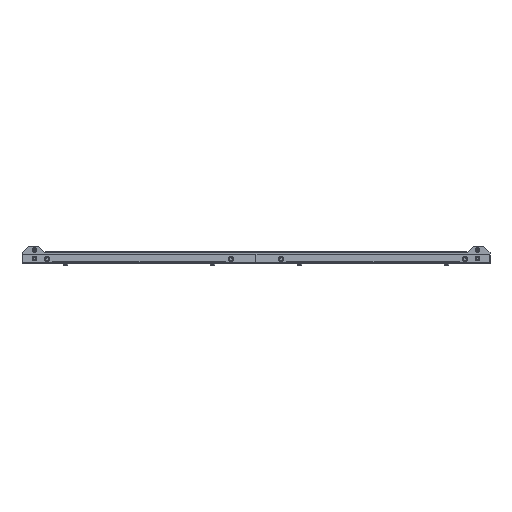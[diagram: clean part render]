
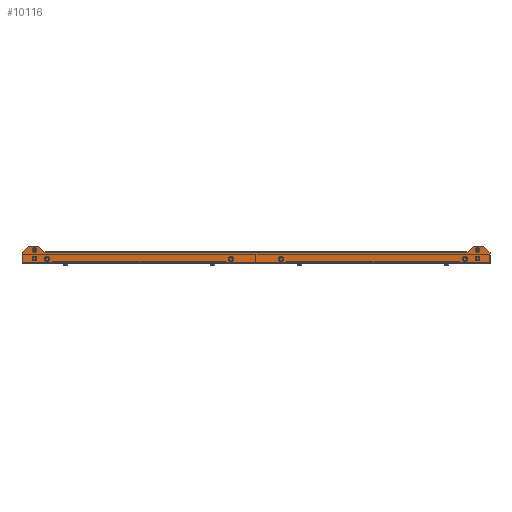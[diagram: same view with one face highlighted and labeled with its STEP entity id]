
A CAD part, front view. The second image highlights one B-rep face of the part: STEP entity #10116.
In plain terms, the highlighted planar face has unit normal (0, -1, 0).
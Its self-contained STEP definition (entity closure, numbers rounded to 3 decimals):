
#10080 = EDGE_CURVE('',#10081,#10083,#10085,.T.);
#10081 = VERTEX_POINT('',#10082);
#10082 = CARTESIAN_POINT('',(-700.,-2.5,3.5));
#10083 = VERTEX_POINT('',#10084);
#10084 = CARTESIAN_POINT('',(-700.,-2.5,31.5));
#10085 = LINE('',#10086,#10087);
#10086 = CARTESIAN_POINT('',(-700.,-2.5,0.));
#10087 = VECTOR('',#10088,1.);
#10088 = DIRECTION('',(0.,0.,1.));
#10116 = ADVANCED_FACE('',(#10117,#10128,#10139,#10150,#10161),#10282,
  .F.);
#10117 = FACE_BOUND('',#10118,.T.);
#10118 = EDGE_LOOP('',(#10119));
#10119 = ORIENTED_EDGE('',*,*,#10120,.F.);
#10120 = EDGE_CURVE('',#10121,#10121,#10123,.T.);
#10121 = VERTEX_POINT('',#10122);
#10122 = CARTESIAN_POINT('',(662.5,-2.5,44.75));
#10123 = CIRCLE('',#10124,4.75);
#10124 = AXIS2_PLACEMENT_3D('',#10125,#10126,#10127);
#10125 = CARTESIAN_POINT('',(662.5,-2.5,40.));
#10126 = DIRECTION('',(0.,-1.,0.));
#10127 = DIRECTION('',(0.,0.,1.));
#10128 = FACE_BOUND('',#10129,.T.);
#10129 = EDGE_LOOP('',(#10130));
#10130 = ORIENTED_EDGE('',*,*,#10131,.F.);
#10131 = EDGE_CURVE('',#10132,#10132,#10134,.T.);
#10132 = VERTEX_POINT('',#10133);
#10133 = CARTESIAN_POINT('',(662.5,-2.5,19.75));
#10134 = CIRCLE('',#10135,4.75);
#10135 = AXIS2_PLACEMENT_3D('',#10136,#10137,#10138);
#10136 = CARTESIAN_POINT('',(662.5,-2.5,15.));
#10137 = DIRECTION('',(0.,-1.,0.));
#10138 = DIRECTION('',(0.,0.,1.));
#10139 = FACE_BOUND('',#10140,.T.);
#10140 = EDGE_LOOP('',(#10141));
#10141 = ORIENTED_EDGE('',*,*,#10142,.F.);
#10142 = EDGE_CURVE('',#10143,#10143,#10145,.T.);
#10143 = VERTEX_POINT('',#10144);
#10144 = CARTESIAN_POINT('',(-662.5,-2.5,19.75));
#10145 = CIRCLE('',#10146,4.75);
#10146 = AXIS2_PLACEMENT_3D('',#10147,#10148,#10149);
#10147 = CARTESIAN_POINT('',(-662.5,-2.5,15.));
#10148 = DIRECTION('',(0.,-1.,0.));
#10149 = DIRECTION('',(0.,0.,1.));
#10150 = FACE_BOUND('',#10151,.T.);
#10151 = EDGE_LOOP('',(#10152));
#10152 = ORIENTED_EDGE('',*,*,#10153,.F.);
#10153 = EDGE_CURVE('',#10154,#10154,#10156,.T.);
#10154 = VERTEX_POINT('',#10155);
#10155 = CARTESIAN_POINT('',(-662.5,-2.5,44.75));
#10156 = CIRCLE('',#10157,4.75);
#10157 = AXIS2_PLACEMENT_3D('',#10158,#10159,#10160);
#10158 = CARTESIAN_POINT('',(-662.5,-2.5,40.));
#10159 = DIRECTION('',(0.,-1.,0.));
#10160 = DIRECTION('',(0.,0.,1.));
#10161 = FACE_BOUND('',#10162,.T.);
#10162 = EDGE_LOOP('',(#10163,#10173,#10181,#10189,#10197,#10205,#10213,
    #10221,#10229,#10237,#10245,#10253,#10259,#10260,#10268,#10276));
#10163 = ORIENTED_EDGE('',*,*,#10164,.F.);
#10164 = EDGE_CURVE('',#10165,#10167,#10169,.T.);
#10165 = VERTEX_POINT('',#10166);
#10166 = CARTESIAN_POINT('',(700.,-2.5,31.5));
#10167 = VERTEX_POINT('',#10168);
#10168 = CARTESIAN_POINT('',(700.,-2.5,3.5));
#10169 = LINE('',#10170,#10171);
#10170 = CARTESIAN_POINT('',(700.,-2.5,0.));
#10171 = VECTOR('',#10172,1.);
#10172 = DIRECTION('',(-0.,-0.,-1.));
#10173 = ORIENTED_EDGE('',*,*,#10174,.T.);
#10174 = EDGE_CURVE('',#10165,#10175,#10177,.T.);
#10175 = VERTEX_POINT('',#10176);
#10176 = CARTESIAN_POINT('',(681.5,-2.5,50.));
#10177 = LINE('',#10178,#10179);
#10178 = CARTESIAN_POINT('',(681.5,-2.5,50.));
#10179 = VECTOR('',#10180,1.);
#10180 = DIRECTION('',(-0.707,-0.,0.707));
#10181 = ORIENTED_EDGE('',*,*,#10182,.F.);
#10182 = EDGE_CURVE('',#10183,#10175,#10185,.T.);
#10183 = VERTEX_POINT('',#10184);
#10184 = CARTESIAN_POINT('',(650.,-2.5,50.));
#10185 = LINE('',#10186,#10187);
#10186 = CARTESIAN_POINT('',(700.,-2.5,50.));
#10187 = VECTOR('',#10188,1.);
#10188 = DIRECTION('',(1.,-0.,0.));
#10189 = ORIENTED_EDGE('',*,*,#10190,.T.);
#10190 = EDGE_CURVE('',#10183,#10191,#10193,.T.);
#10191 = VERTEX_POINT('',#10192);
#10192 = CARTESIAN_POINT('',(631.5,-2.5,31.5));
#10193 = LINE('',#10194,#10195);
#10194 = CARTESIAN_POINT('',(300.,-2.5,-300.));
#10195 = VECTOR('',#10196,1.);
#10196 = DIRECTION('',(-0.707,0.,-0.707));
#10197 = ORIENTED_EDGE('',*,*,#10198,.F.);
#10198 = EDGE_CURVE('',#10199,#10191,#10201,.T.);
#10199 = VERTEX_POINT('',#10200);
#10200 = CARTESIAN_POINT('',(630.,-2.5,31.5));
#10201 = LINE('',#10202,#10203);
#10202 = CARTESIAN_POINT('',(-650.,-2.5,31.5));
#10203 = VECTOR('',#10204,1.);
#10204 = DIRECTION('',(1.,0.,0.));
#10205 = ORIENTED_EDGE('',*,*,#10206,.T.);
#10206 = EDGE_CURVE('',#10199,#10207,#10209,.T.);
#10207 = VERTEX_POINT('',#10208);
#10208 = CARTESIAN_POINT('',(630.,-2.5,35.));
#10209 = LINE('',#10210,#10211);
#10210 = CARTESIAN_POINT('',(630.,-2.5,31.5));
#10211 = VECTOR('',#10212,1.);
#10212 = DIRECTION('',(-0.,-0.,1.));
#10213 = ORIENTED_EDGE('',*,*,#10214,.F.);
#10214 = EDGE_CURVE('',#10215,#10207,#10217,.T.);
#10215 = VERTEX_POINT('',#10216);
#10216 = CARTESIAN_POINT('',(-630.,-2.5,35.));
#10217 = LINE('',#10218,#10219);
#10218 = CARTESIAN_POINT('',(0.,-2.5,35.));
#10219 = VECTOR('',#10220,1.);
#10220 = DIRECTION('',(1.,-0.,-0.));
#10221 = ORIENTED_EDGE('',*,*,#10222,.F.);
#10222 = EDGE_CURVE('',#10223,#10215,#10225,.T.);
#10223 = VERTEX_POINT('',#10224);
#10224 = CARTESIAN_POINT('',(-630.,-2.5,31.5));
#10225 = LINE('',#10226,#10227);
#10226 = CARTESIAN_POINT('',(-630.,-2.5,0.));
#10227 = VECTOR('',#10228,1.);
#10228 = DIRECTION('',(0.,0.,1.));
#10229 = ORIENTED_EDGE('',*,*,#10230,.F.);
#10230 = EDGE_CURVE('',#10231,#10223,#10233,.T.);
#10231 = VERTEX_POINT('',#10232);
#10232 = CARTESIAN_POINT('',(-631.5,-2.5,31.5));
#10233 = LINE('',#10234,#10235);
#10234 = CARTESIAN_POINT('',(-650.,-2.5,31.5));
#10235 = VECTOR('',#10236,1.);
#10236 = DIRECTION('',(1.,0.,0.));
#10237 = ORIENTED_EDGE('',*,*,#10238,.T.);
#10238 = EDGE_CURVE('',#10231,#10239,#10241,.T.);
#10239 = VERTEX_POINT('',#10240);
#10240 = CARTESIAN_POINT('',(-650.,-2.5,50.));
#10241 = LINE('',#10242,#10243);
#10242 = CARTESIAN_POINT('',(-300.,-2.5,-300.));
#10243 = VECTOR('',#10244,1.);
#10244 = DIRECTION('',(-0.707,-0.,0.707));
#10245 = ORIENTED_EDGE('',*,*,#10246,.F.);
#10246 = EDGE_CURVE('',#10247,#10239,#10249,.T.);
#10247 = VERTEX_POINT('',#10248);
#10248 = CARTESIAN_POINT('',(-681.5,-2.5,50.));
#10249 = LINE('',#10250,#10251);
#10250 = CARTESIAN_POINT('',(-700.,-2.5,50.));
#10251 = VECTOR('',#10252,1.);
#10252 = DIRECTION('',(1.,0.,0.));
#10253 = ORIENTED_EDGE('',*,*,#10254,.T.);
#10254 = EDGE_CURVE('',#10247,#10083,#10255,.T.);
#10255 = LINE('',#10256,#10257);
#10256 = CARTESIAN_POINT('',(-700.,-2.5,31.5));
#10257 = VECTOR('',#10258,1.);
#10258 = DIRECTION('',(-0.707,-0.,-0.707));
#10259 = ORIENTED_EDGE('',*,*,#10080,.F.);
#10260 = ORIENTED_EDGE('',*,*,#10261,.T.);
#10261 = EDGE_CURVE('',#10081,#10262,#10264,.T.);
#10262 = VERTEX_POINT('',#10263);
#10263 = CARTESIAN_POINT('',(-700.,-2.5,0.));
#10264 = LINE('',#10265,#10266);
#10265 = CARTESIAN_POINT('',(-700.,-2.5,3.5));
#10266 = VECTOR('',#10267,1.);
#10267 = DIRECTION('',(-0.,-0.,-1.));
#10268 = ORIENTED_EDGE('',*,*,#10269,.F.);
#10269 = EDGE_CURVE('',#10270,#10262,#10272,.T.);
#10270 = VERTEX_POINT('',#10271);
#10271 = CARTESIAN_POINT('',(700.,-2.5,0.));
#10272 = LINE('',#10273,#10274);
#10273 = CARTESIAN_POINT('',(0.,-2.5,0.));
#10274 = VECTOR('',#10275,1.);
#10275 = DIRECTION('',(-1.,-0.,0.));
#10276 = ORIENTED_EDGE('',*,*,#10277,.F.);
#10277 = EDGE_CURVE('',#10167,#10270,#10278,.T.);
#10278 = LINE('',#10279,#10280);
#10279 = CARTESIAN_POINT('',(700.,-2.5,0.));
#10280 = VECTOR('',#10281,1.);
#10281 = DIRECTION('',(0.,0.,-1.));
#10282 = PLANE('',#10283);
#10283 = AXIS2_PLACEMENT_3D('',#10284,#10285,#10286);
#10284 = CARTESIAN_POINT('',(0.,-2.5,0.));
#10285 = DIRECTION('',(0.,1.,0.));
#10286 = DIRECTION('',(0.,-0.,1.));
